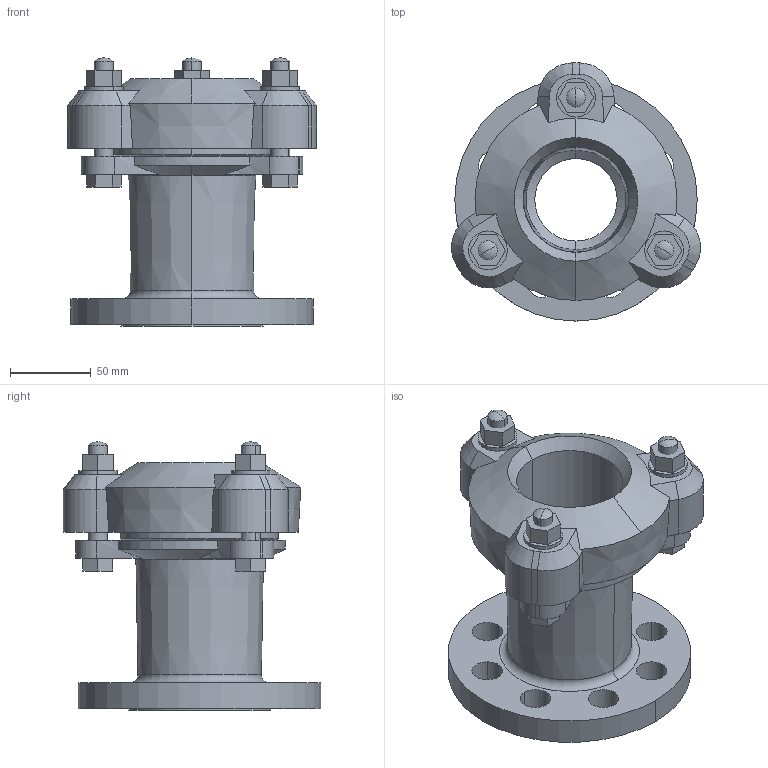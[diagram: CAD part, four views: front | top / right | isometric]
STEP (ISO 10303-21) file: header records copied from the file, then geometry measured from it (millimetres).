
FILE_DESCRIPTION((''),'2;1');
FILE_NAME('BIM_13199_15_ASM','2020-04-01T',('MReader'),(''),'CREO PARAMETRIC BY PTC INC, 2016130','CREO PARAMETRIC BY PTC INC, 2016130','');
FILE_SCHEMA(('CONFIG_CONTROL_DESIGN'));
Length unit declared in the file: millimetre
Products named in the file (3): BIM_12197_6; _BIM_13230_2; BIM_13199_15_ASM
Assembly tree (2 placements, depth 2):
  BIM_13199_15_ASM
    BIM_12197_6
    _BIM_13230_2
Bounding box: 154.06 x 159.47 x 166 mm (x, y, z)
Volume: 868378.9 mm3; surface area: 156560.4 mm2
Topology: 2 solids, 2 shells, 169 faces, 431 edges, 273 vertices
Faces by surface type: plane 77, cylinder 59, cone 25, sphere 6, torus 2
Entity records: 5247 total; most frequent: CARTESIAN_POINT 967, DIRECTION 911, ORIENTED_EDGE 850, EDGE_CURVE 425, AXIS2_PLACEMENT_3D 337, VERTEX_POINT 273, VECTOR 237, LINE 237
